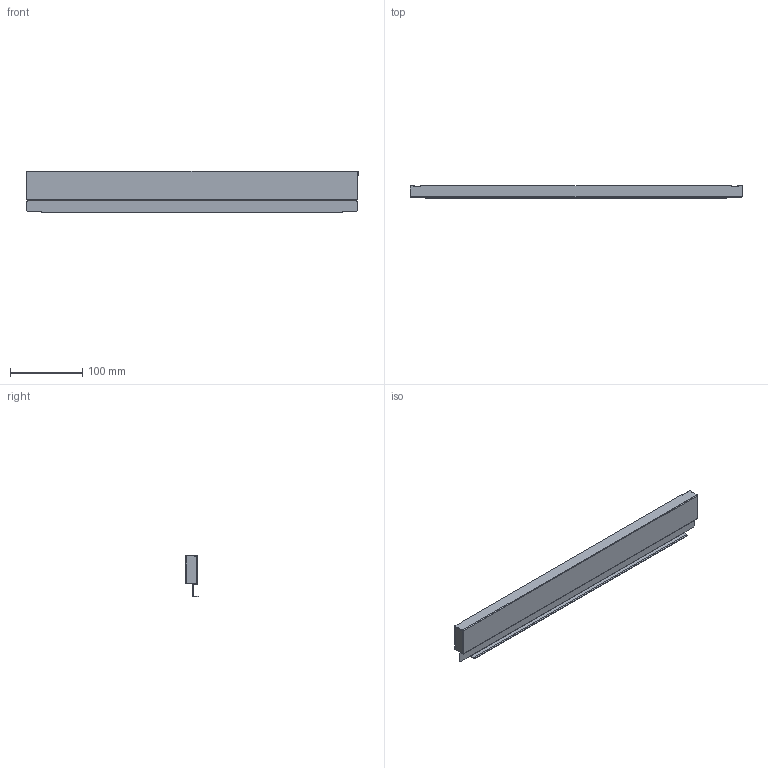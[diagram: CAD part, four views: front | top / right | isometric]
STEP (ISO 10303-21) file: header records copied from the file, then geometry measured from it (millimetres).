
FILE_DESCRIPTION (( 'STEP AP214' ), '1' );
FILE_NAME ('_STRW_H63_KAB_550.step', '2010-08-24T14:40:50', ( 'grass' ), ( '' ), 'SwSTEP 2.0', 'SolidWorks 2009', '' );
FILE_SCHEMA (( 'AUTOMOTIVE_DESIGN' ));
Length unit declared in the file: millimetre
Products named in the file (1): _STRW_H63_KAB_550
Bounding box: 460 x 17 x 58.14 mm (x, y, z)
Volume: 32200.3 mm3; surface area: 81447.1 mm2
Topology: 1 solids, 1 shells, 77 faces, 217 edges, 142 vertices
Faces by surface type: plane 54, cylinder 23
Entity records: 2507 total; most frequent: CARTESIAN_POINT 437, ORIENTED_EDGE 434, DIRECTION 419, EDGE_CURVE 217, LINE 171, VECTOR 171, VERTEX_POINT 142, AXIS2_PLACEMENT_3D 124
